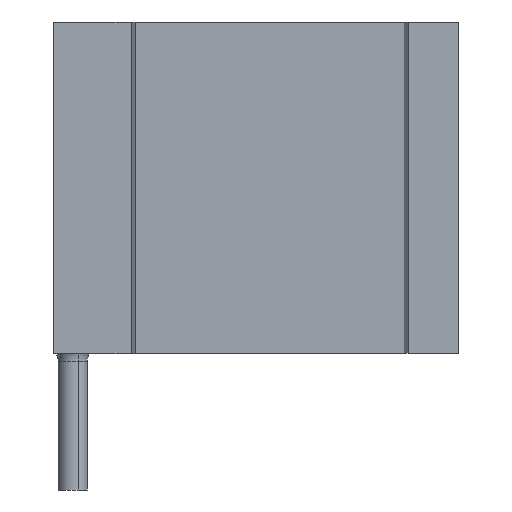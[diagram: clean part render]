
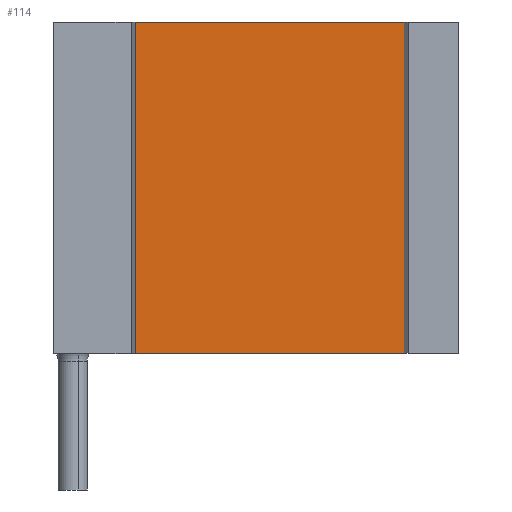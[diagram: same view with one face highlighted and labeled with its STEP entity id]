
A CAD part, left-side view. The second image highlights one B-rep face of the part: STEP entity #114.
In plain terms, the highlighted planar face has unit normal (-1, 0, 0).
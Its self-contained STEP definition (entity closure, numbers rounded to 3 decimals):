
#59 = ORIENTED_EDGE ( 'NONE', *, *, #1180, .F. ) ;
#70 = VERTEX_POINT ( 'NONE', #301 ) ;
#89 = LINE ( 'NONE', #1720, #1045 ) ;
#114 = ADVANCED_FACE ( 'NONE', ( #1917 ), #1111, .F. ) ;
#301 = CARTESIAN_POINT ( 'NONE',  ( 66.6, 300.204, 365.517 ) ) ;
#341 = CARTESIAN_POINT ( 'NONE',  ( 66.6, 300.204, 280.517 ) ) ;
#346 = CARTESIAN_POINT ( 'NONE',  ( 66.6, 231.204, 280.517 ) ) ;
#402 = EDGE_CURVE ( 'NONE', #2004, #1553, #1596, .T. ) ;
#452 = VECTOR ( 'NONE', #516, 1000. ) ;
#485 = VERTEX_POINT ( 'NONE', #2434 ) ;
#501 = AXIS2_PLACEMENT_3D ( 'NONE', #2319, #2330, #1906 ) ;
#516 = DIRECTION ( 'NONE',  ( 0., -1., 0. ) ) ;
#750 = CARTESIAN_POINT ( 'NONE',  ( 66.6, 300.204, 280.517 ) ) ;
#933 = ORIENTED_EDGE ( 'NONE', *, *, #1761, .F. ) ;
#990 = LINE ( 'NONE', #2371, #452 ) ;
#1020 = CARTESIAN_POINT ( 'NONE',  ( 66.6, 298.704, 280.517 ) ) ;
#1045 = VECTOR ( 'NONE', #2321, 1000. ) ;
#1111 = PLANE ( 'NONE',  #501 ) ;
#1180 = EDGE_CURVE ( 'NONE', #70, #485, #990, .T. ) ;
#1416 = LINE ( 'NONE', #750, #1716 ) ;
#1553 = VERTEX_POINT ( 'NONE', #346 ) ;
#1567 = ORIENTED_EDGE ( 'NONE', *, *, #2235, .F. ) ;
#1596 = LINE ( 'NONE', #1020, #1858 ) ;
#1603 = ORIENTED_EDGE ( 'NONE', *, *, #402, .T. ) ;
#1707 = EDGE_LOOP ( 'NONE', ( #1603, #933, #59, #1567 ) ) ;
#1716 = VECTOR ( 'NONE', #2393, 1000. ) ;
#1720 = CARTESIAN_POINT ( 'NONE',  ( 66.6, 231.204, 365.517 ) ) ;
#1761 = EDGE_CURVE ( 'NONE', #485, #1553, #89, .T. ) ;
#1858 = VECTOR ( 'NONE', #1996, 1000. ) ;
#1906 = DIRECTION ( 'NONE',  ( 0., 0., -1. ) ) ;
#1917 = FACE_OUTER_BOUND ( 'NONE', #1707, .T. ) ;
#1996 = DIRECTION ( 'NONE',  ( 0., -1., 0. ) ) ;
#2004 = VERTEX_POINT ( 'NONE', #341 ) ;
#2235 = EDGE_CURVE ( 'NONE', #2004, #70, #1416, .T. ) ;
#2319 = CARTESIAN_POINT ( 'NONE',  ( 66.6, 298.704, 365.517 ) ) ;
#2321 = DIRECTION ( 'NONE',  ( 0., 0., -1. ) ) ;
#2330 = DIRECTION ( 'NONE',  ( 1., 0., 0. ) ) ;
#2371 = CARTESIAN_POINT ( 'NONE',  ( 66.6, 298.704, 365.517 ) ) ;
#2393 = DIRECTION ( 'NONE',  ( 0., 0., 1. ) ) ;
#2434 = CARTESIAN_POINT ( 'NONE',  ( 66.6, 231.204, 365.517 ) ) ;
